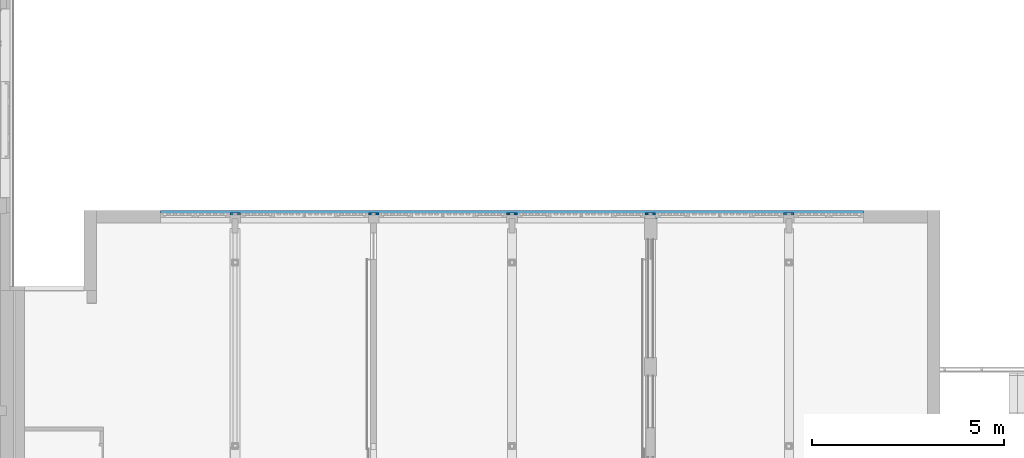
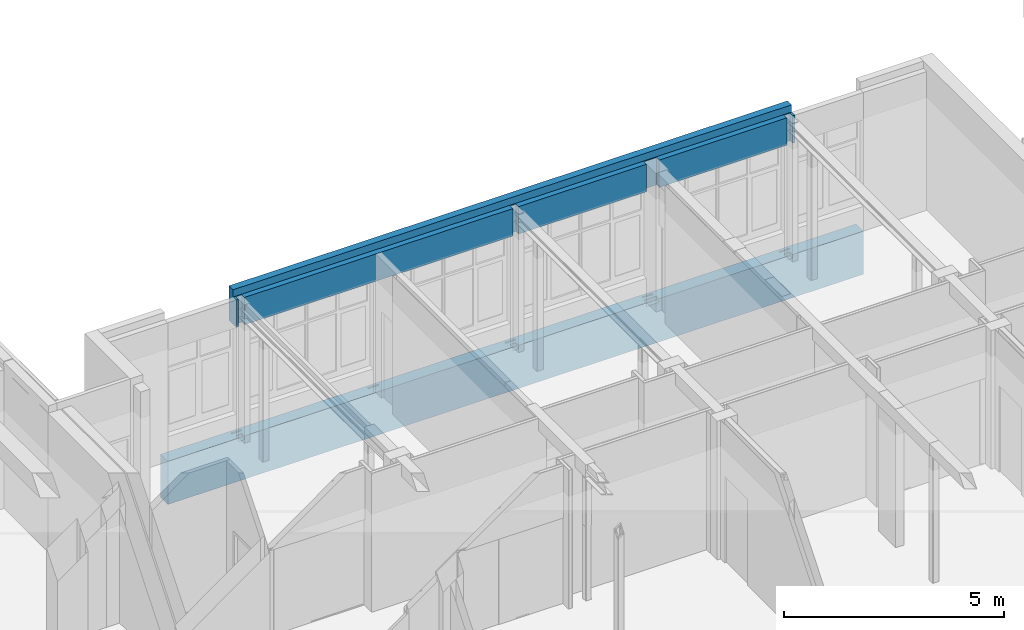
# One storey, part 76 of 135: 1 wall, 10 openings.
"""IFC2X3 building model written with IfcOpenShell, lengths in millimetres."""

from ifc_helpers import new_model, entity, si_unit, converted_unit, derived_unit, money_unit, direction, frame, origin_with_axes, place, context, subcontext, project, spatial, faceted_brep, material, type_object, element, save


model = new_model("IFC2X3")

# Units and contexts
model_context = context("Model", 3, precision=0.01, world=origin_with_axes(), true_north=direction((0.0, 1.0)))
body_context = subcontext(model_context, "Body", "Model", "MODEL_VIEW")
ifc_project = project(units=[si_unit("LENGTHUNIT", "METRE", prefix="MILLI"), si_unit("AREAUNIT", "SQUARE_METRE"), si_unit("VOLUMEUNIT", "CUBIC_METRE"), converted_unit("PLANEANGLEUNIT", "DEGREE", entity("IfcPlaneAngleMeasure", 0.0174532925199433), si_unit("PLANEANGLEUNIT", "RADIAN"), dimensions=[0, 0, 0, 0, 0, 0, 0]), money_unit("EUR"), converted_unit("TIMEUNIT", "Year", entity("IfcTimeMeasure", 31557600.0), si_unit("TIMEUNIT", "SECOND"), dimensions=[0, 0, 1, 0, 0, 0, 0]), si_unit("MASSUNIT", "GRAM", prefix="KILO"), si_unit("THERMODYNAMICTEMPERATUREUNIT", "DEGREE_CELSIUS"), si_unit("LUMINOUSINTENSITYUNIT", "LUMEN"), si_unit("ENERGYUNIT", "JOULE", prefix="MEGA"), derived_unit("THERMALCONDUCTANCEUNIT", [(si_unit("POWERUNIT", "WATT"), 1), (si_unit("LENGTHUNIT", "METRE"), -1), (si_unit("THERMODYNAMICTEMPERATUREUNIT", "KELVIN"), -1)]), derived_unit("SPECIFICHEATCAPACITYUNIT", [(si_unit("ENERGYUNIT", "JOULE"), 1), (si_unit("MASSUNIT", "GRAM", prefix="KILO"), -1), (si_unit("THERMODYNAMICTEMPERATUREUNIT", "KELVIN"), -1)]), derived_unit("MASSDENSITYUNIT", [(si_unit("MASSUNIT", "GRAM", prefix="KILO"), 1), (si_unit("VOLUMEUNIT", "CUBIC_METRE"), -1)])], contexts=[model_context])

# Site, building, storey
site_placement = place(None, origin_with_axes())
site = spatial("IfcSite", under=ifc_project, at=site_placement, Name="Site", CompositionType="ELEMENT")
building_placement = place(site_placement, origin_with_axes())
building = spatial("IfcBuilding", under=site, at=building_placement, Name="Naam gebouw", CompositionType="ELEMENT")
storey_placement = place(building_placement, origin_with_axes())
storey = spatial("IfcBuildingStorey", under=building, at=storey_placement, Name="Begane grond N", CompositionType="ELEMENT", Elevation=0.0)

# Wall, openings
ifc_material = material(Name="ALG - CONSTRUCTIEF")
wall_type = type_object("IfcWallType", Name="ALG - CONSTRUCTIEF 330", PredefinedType="NOTDEFINED")
wall_placement = place(storey_placement, frame((52337.5, 27505.91242510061, -1200.0), z_axis=(0.0, 0.0, 1.0), x_axis=(-1.0, 0.0, 0.0)))
wall = element("IfcWall", 1, at=wall_placement, inside=storey, type_object=wall_type, material=ifc_material, Name="_Wand-x", context=body_context, shape_type="Brep", body=[
    faceted_brep([(16475.0, -145.9999999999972, 1200.0), (16475.0, 0.0, 1200.0), (16412.5, 0.0, 1200.0), (16412.5, -119.9999999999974, 1200.0), (16262.5, -119.9999999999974, 1200.0), (16262.5, 0.0, 1200.0), (14537.5, 0.0, 1200.0), (9212.500000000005, 0.0, 1200.0), (9212.500000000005, -119.9999999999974, 1200.0), (9062.5, -119.9999999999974, 1200.0), (9062.5, 0.0, 1200.0), (5695.197781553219, 0.0, 1200.0), (5695.197781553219, -120.000000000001, 1200.0), (5365.197781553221, -120.000000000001, 1200.0), (5365.197781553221, 0.0, 1200.0), (2012.50000000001, 0.0, 1200.0), (2012.50000000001, -120.000000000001, 1200.0), (1862.500000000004, -120.000000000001, 1200.0), (1862.500000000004, 0.0, 1200.0), (1800.000000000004, 0.0, 1200.0), (1799.999999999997, -146.0000000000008, 1200.0), (0.0, -146.0000000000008, 1200.0), (0.0, -329.9999999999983, 1200.0), (18275.00000000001, -329.9999999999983, 1200.0), (18275.00000000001, -145.9999999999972, 1200.0), (2075.000000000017, -216.0000000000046, 1200.0), (2075.000000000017, -259.999999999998, 1200.0), (1799.999999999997, -259.999999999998, 1200.0), (1799.999999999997, -216.0000000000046, 1200.0), (5400.000000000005, -259.999999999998, 1200.0), (5400.000000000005, -216.0000000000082, 1200.0), (5675.000000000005, -216.0000000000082, 1200.0), (5675.000000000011, -259.999999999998, 1200.0), (9000.000000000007, -259.9999999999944, 1200.0), (9000.000000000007, -216.0000000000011, 1200.0), (9274.999999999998, -216.0000000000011, 1200.0), (9275.000000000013, -259.9999999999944, 1200.0), (12600.00000000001, -259.9999999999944, 1200.0), (12600.00000000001, -216.0000000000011, 1200.0), (12875.00000000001, -216.0000000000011, 1200.0), (12875.00000000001, -259.9999999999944, 1200.0), (16200.0, -259.999999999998, 1200.0), (16200.0, -216.0000000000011, 1200.0), (16475.0, -216.0000000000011, 1200.0), (16475.0, -259.999999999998, 1200.0), (18275.00000000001, 0.0, 1200.0), (18275.00000000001, 0.0, 0.0), (0.0, 0.0, 0.0), (0.0, 0.0, 1200.0), (1862.500000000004, 0.0, 1100.0), (2012.50000000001, 0.0, 1100.0), (5365.197781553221, 0.0, 1100.0), (5695.197781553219, 0.0, 1100.0), (9062.5, 0.0, 1100.0), (9212.500000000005, 0.0, 1100.0), (16262.5, 0.0, 1100.0), (16412.5, 0.0, 1100.0), (16412.5, -119.9999999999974, 1100.0), (16262.5, -119.9999999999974, 1100.0), (9212.500000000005, -119.9999999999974, 1100.0), (9062.5, -119.9999999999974, 1100.0), (5695.197781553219, -120.000000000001, 1100.0), (5365.197781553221, -120.000000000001, 1100.0), (2012.50000000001, -120.000000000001, 1100.0), (1862.500000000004, -120.000000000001, 1100.0), (0.0, -329.9999999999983, 0.0), (18275.00000000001, -329.9999999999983, 0.0)], [[[0, 1, 2, 3, 4, 5, 6, 7, 8, 9, 10, 11, 12, 13, 14, 15, 16, 17, 18, 19, 20, 21, 22, 23, 24], [25, 26, 27, 28], [29, 30, 31, 32], [33, 34, 35, 36], [37, 38, 39, 40], [41, 42, 43, 44]], [[1, 0, 24, 45]], [[2, 1, 45, 46, 47, 48, 19, 18, 49, 50, 15, 14, 51, 52, 11, 10, 53, 54, 7, 6, 5, 55, 56]], [[3, 2, 56, 57]], [[4, 3, 57, 58]], [[5, 4, 58, 55]], [[8, 7, 54, 59]], [[9, 8, 59, 60]], [[10, 9, 60, 53]], [[52, 61, 12, 11]], [[62, 13, 12, 61]], [[14, 13, 62, 51]], [[50, 63, 16, 15]], [[63, 64, 17, 16]], [[64, 49, 18, 17]], [[19, 48, 21, 20]], [[65, 22, 21, 48, 47]], [[65, 66, 23, 22]], [[66, 46, 45, 24, 23]], [[26, 25, 28, 27]], [[30, 29, 32, 31]], [[34, 33, 36, 35]], [[38, 37, 40, 39]], [[42, 41, 44, 43]], [[46, 66, 65, 47]], [[49, 64, 63, 50]], [[61, 52, 51, 62]], [[53, 60, 59, 54]], [[55, 58, 57, 56]]]),
    faceted_brep([(14537.5, 0.0, 4290.0), (16262.5, 0.0, 4290.0), (16262.5, -119.9999999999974, 4290.0), (16412.5, -119.9999999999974, 4290.0), (16412.5, 0.0, 4290.0), (16475.0, 0.0, 4290.0), (16475.0, -145.9999999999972, 4290.0), (16475.0, -216.0000000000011, 4290.0), (16200.0, -216.0000000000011, 4290.0), (16200.0, -259.999999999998, 4290.0), (16475.0, -259.999999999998, 4290.0), (16475.0, -329.9999999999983, 4290.0), (1799.999999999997, -330.0000000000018, 4290.0), (1799.999999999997, -259.999999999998, 4290.000000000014), (2075.000000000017, -259.999999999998, 4290.0), (2075.000000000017, -216.0000000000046, 4290.0), (1799.999999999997, -216.0000000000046, 4290.0), (1799.999999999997, 0.0, 4290.0), (1862.500000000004, 0.0, 4290.0), (1862.500000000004, -120.000000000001, 4290.0), (2012.50000000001, -120.000000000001, 4290.0), (2012.50000000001, 0.0, 4290.0), (5365.197781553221, 0.0, 4290.0), (5365.197781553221, -120.000000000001, 4290.0), (5695.197781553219, -120.000000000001, 4290.0), (5695.197781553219, 0.0, 4290.0), (9062.5, 0.0, 4290.0), (9062.5, -119.9999999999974, 4290.0), (9212.500000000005, -119.9999999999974, 4290.0), (9212.500000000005, 0.0, 4290.0), (5400.000000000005, -259.999999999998, 4290.0), (5675.000000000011, -259.999999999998, 4290.0), (5675.000000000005, -216.0000000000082, 4290.0), (5400.000000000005, -216.0000000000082, 4290.0), (9000.000000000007, -259.9999999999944, 4290.0), (9275.000000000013, -259.9999999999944, 4290.0), (9274.999999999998, -216.0000000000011, 4290.0), (9000.000000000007, -216.0000000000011, 4290.0), (12600.00000000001, -259.9999999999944, 4290.0), (12875.00000000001, -259.9999999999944, 4290.0), (12875.00000000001, -216.0000000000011, 4290.0), (12600.00000000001, -216.0000000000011, 4290.0), (9212.500000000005, 0.0, 5050.000000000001), (16262.5, 0.0, 5050.000000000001), (16262.5, -119.9999999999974, 5050.000000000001), (16412.5, -119.9999999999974, 5050.000000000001), (16412.5, 0.0, 5050.000000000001), (16475.00000000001, 0.0, 5050.000000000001), (16475.00000000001, -145.9999999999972, 5050.000000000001), (16475.00000000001, -145.9999999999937, 5250.000000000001), (16475.00000000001, -329.9999999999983, 5250.000000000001), (1799.999999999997, -329.9999999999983, 5250.000000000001), (1799.999999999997, -145.9999999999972, 5250.000000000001), (1799.999999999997, -145.9999999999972, 5050.000000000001), (1799.999999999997, -146.0000000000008, 4290.0), (1799.999999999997, 0.0, 5050.000000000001), (1862.500000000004, 0.0, 5050.000000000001), (1862.500000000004, -120.000000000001, 5050.000000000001), (2012.50000000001, -120.000000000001, 5050.000000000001), (2012.50000000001, 0.0, 5050.000000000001), (5365.197781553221, 0.0, 5050.000000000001), (5365.197781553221, -120.000000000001, 5050.000000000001), (5695.197781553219, -120.000000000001, 5050.000000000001), (5695.197781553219, 0.0, 5050.000000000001), (9062.5, 0.0, 5050.000000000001), (9062.5, -119.9999999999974, 5050.000000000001), (9212.500000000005, -119.9999999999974, 5050.000000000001)], [[[0, 1, 2, 3, 4, 5, 6, 7, 8, 9, 10, 11, 12, 13, 14, 15, 16, 17, 18, 19, 20, 21, 22, 23, 24, 25, 26, 27, 28, 29], [30, 31, 32, 33], [34, 35, 36, 37], [38, 39, 40, 41]], [[1, 0, 29, 42, 43]], [[2, 1, 43, 44]], [[3, 2, 44, 45]], [[4, 3, 45, 46]], [[5, 4, 46, 47]], [[6, 5, 47, 48]], [[7, 6, 48, 49, 50, 11, 10]], [[8, 7, 10, 9]], [[50, 51, 12, 11]], [[12, 51, 52, 53, 54, 17, 16, 13]], [[15, 14, 13, 16]], [[55, 56, 18, 17]], [[56, 57, 19, 18]], [[57, 58, 20, 19]], [[58, 59, 21, 20]], [[22, 21, 59, 60]], [[23, 22, 60, 61]], [[61, 62, 24, 23]], [[62, 63, 25, 24]], [[26, 25, 63, 64]], [[27, 26, 64, 65]], [[28, 27, 65, 66]], [[29, 28, 66, 42]], [[30, 33, 32, 31]], [[34, 37, 36, 35]], [[38, 41, 40, 39]], [[64, 63, 62, 61, 60, 59, 58, 57, 56, 55, 53, 48, 47, 46, 45, 44, 43, 42, 66, 65]], [[49, 48, 53, 52]], [[50, 49, 52, 51]], [[55, 17, 54, 53]]]),
])
opening_1_placement = place(wall_placement, frame((2906.250000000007, 0.0, 1200.0), z_axis=(0.0, 0.0, 1.0), x_axis=(1.0, 0.0, 0.0)))
element("IfcOpeningElement", 2, at=opening_1_placement, cuts=wall, Name="_Merk-006", context=body_context, shape_type="Brep", body=[
    faceted_brep([(831.2499999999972, -259.999999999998, 0.0), (831.2499999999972, -259.999999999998, 3090.0), (831.2499999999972, -331.0000000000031, 3090.0), (831.2499999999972, -331.0000000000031, 0.0), (831.2499999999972, 1.000000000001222, 0.0), (831.2499999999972, 1.000000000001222, 3090.0), (-1106.250000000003, -259.999999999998, 3090.0), (-1106.250000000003, -331.0000000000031, 3090.0), (-1106.250000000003, 1.000000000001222, 3090.0), (-1106.250000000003, -331.0000000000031, 0.0), (-1106.250000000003, -259.999999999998, 0.0), (-1106.250000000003, 1.000000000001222, 0.0)], [[[0, 1, 2, 3]], [[1, 0, 4, 5]], [[6, 7, 2, 1, 5, 8]], [[7, 9, 3, 2]], [[0, 3, 9, 10, 11, 4]], [[5, 4, 11, 8]], [[6, 10, 9, 7]], [[10, 6, 8, 11]]]),
])
opening_2_placement = place(wall_placement, frame((17375.00000000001, 0.0, 1200.0), z_axis=(0.0, 0.0, 1.0), x_axis=(1.0, 0.0, 0.0)))
element("IfcOpeningElement", 3, at=opening_2_placement, cuts=wall, Name="_Merk-005", context=body_context, shape_type="Brep", body=[
    faceted_brep([(899.9999999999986, -259.999999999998, 0.0), (899.9999999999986, -259.999999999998, 4090.0), (899.9999999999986, -330.9999999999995, 4090.0), (899.9999999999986, -330.9999999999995, 0.0), (899.9999999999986, 1.000000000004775, 0.0), (899.9999999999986, 1.000000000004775, 4090.0), (-899.9999999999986, -259.999999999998, 4090.0), (-899.9999999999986, -330.9999999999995, 4090.0), (-899.9999999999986, 1.000000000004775, 4090.0), (-899.9999999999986, -330.9999999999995, 0.0), (-899.9999999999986, -259.999999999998, 0.0), (-899.9999999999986, 1.000000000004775, 0.0)], [[[0, 1, 2, 3]], [[1, 0, 4, 5]], [[6, 7, 2, 1, 5, 8]], [[7, 9, 3, 2]], [[0, 3, 9, 10, 11, 4]], [[5, 4, 11, 8]], [[6, 10, 9, 7]], [[10, 6, 8, 11]]]),
])
opening_3_placement = place(wall_placement, frame((899.9999999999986, 0.0, 1200.0), z_axis=(0.0, 0.0, 1.0), x_axis=(1.0, 0.0, 0.0)))
element("IfcOpeningElement", 4, at=opening_3_placement, cuts=wall, Name="_Merk-005", context=body_context, shape_type="Brep", body=[
    faceted_brep([(899.9999999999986, -259.999999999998, 0.0), (899.9999999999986, -259.999999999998, 4090.0), (899.9999999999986, -331.0000000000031, 4090.0), (899.9999999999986, -331.0000000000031, 0.0), (899.9999999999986, 1.000000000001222, 0.0), (899.9999999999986, 1.000000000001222, 4090.0), (-899.9999999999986, -259.999999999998, 4090.0), (-899.9999999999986, -331.0000000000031, 4090.0), (-899.9999999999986, 1.000000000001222, 4090.0), (-899.9999999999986, -331.0000000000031, 0.0), (-899.9999999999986, -259.999999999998, 0.0), (-899.9999999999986, 1.000000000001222, 0.0)], [[[0, 1, 2, 3]], [[1, 0, 4, 5]], [[6, 7, 2, 1, 5, 8]], [[7, 9, 3, 2]], [[0, 3, 9, 10, 11, 4]], [[5, 4, 11, 8]], [[6, 10, 9, 7]], [[10, 6, 8, 11]]]),
])
opening_4_placement = place(wall_placement, frame((6506.250000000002, 0.0, 1200.0), z_axis=(0.0, 0.0, 1.0), x_axis=(1.0, 0.0, 0.0)))
element("IfcOpeningElement", 5, at=opening_4_placement, cuts=wall, Name="_Merk-006", context=body_context, shape_type="Brep", body=[
    faceted_brep([(831.2499999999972, -259.9999999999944, 0.0), (831.2499999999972, -259.9999999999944, 3090.0), (831.2499999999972, -330.9999999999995, 3090.0), (831.2499999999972, -330.9999999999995, 0.0), (831.2499999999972, 1.000000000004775, 0.0), (831.2499999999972, 1.000000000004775, 3090.0), (-1106.250000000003, -259.999999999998, 3090.0), (-1106.250000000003, -331.0000000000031, 3090.0), (-1106.250000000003, 1.000000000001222, 3090.0), (-1106.250000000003, -331.0000000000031, 0.0), (-1106.250000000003, -259.999999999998, 0.0), (-1106.250000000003, 1.000000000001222, 0.0)], [[[0, 1, 2, 3]], [[1, 0, 4, 5]], [[6, 7, 2, 1, 5, 8]], [[7, 9, 3, 2]], [[0, 3, 9, 10, 11, 4]], [[5, 4, 11, 8]], [[6, 10, 9, 7]], [[10, 6, 8, 11]]]),
])
opening_5_placement = place(wall_placement, frame((4568.750000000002, 0.0, 1200.0), z_axis=(0.0, 0.0, 1.0), x_axis=(1.0, 0.0, 0.0)))
element("IfcOpeningElement", 6, at=opening_5_placement, cuts=wall, Name="_Merk-006sp", context=body_context, shape_type="Brep", body=[
    faceted_brep([(1106.250000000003, -259.999999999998, 0.0), (1106.250000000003, -259.999999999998, 3090.0), (1106.250000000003, -331.0000000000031, 3090.0), (1106.250000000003, -331.0000000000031, 0.0), (1106.250000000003, 1.000000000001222, 0.0), (1106.250000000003, 1.000000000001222, 3090.0), (-831.2499999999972, -259.999999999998, 3090.0), (-831.2499999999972, -331.0000000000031, 3090.0), (-831.2499999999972, 1.000000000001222, 3090.0), (-831.2499999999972, -331.0000000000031, 0.0), (-831.2499999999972, -259.999999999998, 0.0), (-831.2499999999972, 1.000000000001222, 0.0)], [[[0, 1, 2, 3]], [[1, 0, 4, 5]], [[6, 7, 2, 1, 5, 8]], [[7, 9, 3, 2]], [[0, 3, 9, 10, 11, 4]], [[5, 4, 11, 8]], [[6, 10, 9, 7]], [[10, 6, 8, 11]]]),
])
opening_6_placement = place(wall_placement, frame((10106.25, 0.0, 1200.0), z_axis=(0.0, 0.0, 1.0), x_axis=(1.0, 0.0, 0.0)))
element("IfcOpeningElement", 7, at=opening_6_placement, cuts=wall, Name="_Merk-006", context=body_context, shape_type="Brep", body=[
    faceted_brep([(831.2499999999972, -259.9999999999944, 0.0), (831.2499999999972, -259.9999999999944, 3090.0), (831.2499999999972, -330.9999999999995, 3090.0), (831.2499999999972, -330.9999999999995, 0.0), (831.2499999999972, 1.000000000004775, 0.0), (831.2499999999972, 1.000000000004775, 3090.0), (-1106.250000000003, -259.9999999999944, 3090.0), (-1106.250000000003, -330.9999999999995, 3090.0), (-1106.250000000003, 1.000000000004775, 3090.0), (-1106.250000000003, -330.9999999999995, 0.0), (-1106.250000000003, -259.9999999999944, 0.0), (-1106.250000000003, 1.000000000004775, 0.0)], [[[0, 1, 2, 3]], [[1, 0, 4, 5]], [[6, 7, 2, 1, 5, 8]], [[7, 9, 3, 2]], [[0, 3, 9, 10, 11, 4]], [[5, 4, 11, 8]], [[6, 10, 9, 7]], [[10, 6, 8, 11]]]),
])
opening_7_placement = place(wall_placement, frame((13706.25, 0.0, 1200.0), z_axis=(0.0, 0.0, 1.0), x_axis=(1.0, 0.0, 0.0)))
element("IfcOpeningElement", 8, at=opening_7_placement, cuts=wall, Name="_Merk-006", context=body_context, shape_type="Brep", body=[
    faceted_brep([(831.2499999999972, -259.9999999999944, 0.0), (831.2499999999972, -259.9999999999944, 3090.0), (831.2499999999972, -330.9999999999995, 3090.0), (831.2499999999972, -330.9999999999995, 0.0), (831.2499999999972, 1.000000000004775, 0.0), (831.2499999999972, 1.000000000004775, 3090.0), (-1106.250000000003, -259.9999999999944, 3090.0), (-1106.250000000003, -330.9999999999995, 3090.0), (-1106.250000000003, 1.000000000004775, 3090.0), (-1106.250000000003, -330.9999999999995, 0.0), (-1106.250000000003, -259.9999999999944, 0.0), (-1106.250000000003, 1.000000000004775, 0.0)], [[[0, 1, 2, 3]], [[1, 0, 4, 5]], [[6, 7, 2, 1, 5, 8]], [[7, 9, 3, 2]], [[0, 3, 9, 10, 11, 4]], [[5, 4, 11, 8]], [[6, 10, 9, 7]], [[10, 6, 8, 11]]]),
])
opening_8_placement = place(wall_placement, frame((11768.75, 0.0, 1200.0), z_axis=(0.0, 0.0, 1.0), x_axis=(1.0, 0.0, 0.0)))
element("IfcOpeningElement", 9, at=opening_8_placement, cuts=wall, Name="_Merk-006sp", context=body_context, shape_type="Brep", body=[
    faceted_brep([(1106.250000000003, -259.9999999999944, 0.0), (1106.250000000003, -259.9999999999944, 3090.0), (1106.250000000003, -330.9999999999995, 3090.0), (1106.250000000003, -330.9999999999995, 0.0), (1106.250000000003, 1.000000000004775, 0.0), (1106.250000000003, 1.000000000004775, 3090.0), (-831.2499999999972, -259.9999999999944, 3090.0), (-831.2499999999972, -330.9999999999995, 3090.0), (-831.2499999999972, 1.000000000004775, 3090.0), (-831.2499999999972, -330.9999999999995, 0.0), (-831.2499999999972, -259.9999999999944, 0.0), (-831.2499999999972, 1.000000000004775, 0.0)], [[[0, 1, 2, 3]], [[1, 0, 4, 5]], [[6, 7, 2, 1, 5, 8]], [[7, 9, 3, 2]], [[0, 3, 9, 10, 11, 4]], [[5, 4, 11, 8]], [[6, 10, 9, 7]], [[10, 6, 8, 11]]]),
])
opening_9_placement = place(wall_placement, frame((8168.749999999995, 0.0, 1200.0), z_axis=(0.0, 0.0, 1.0), x_axis=(1.0, 0.0, 0.0)))
element("IfcOpeningElement", 10, at=opening_9_placement, cuts=wall, Name="_Merk-006sp", context=body_context, shape_type="Brep", body=[
    faceted_brep([(1106.250000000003, -259.999999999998, 0.0), (1106.250000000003, -259.999999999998, 3090.0), (1106.250000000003, -331.0000000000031, 3090.0), (1106.250000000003, -331.0000000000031, 0.0), (1106.250000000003, 1.000000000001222, 0.0), (1106.250000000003, 1.000000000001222, 3090.0), (-831.2499999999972, -259.999999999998, 3090.0), (-831.2499999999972, -331.0000000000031, 3090.0), (-831.2499999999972, 1.000000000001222, 3090.0), (-831.2499999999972, -331.0000000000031, 0.0), (-831.2499999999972, -259.999999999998, 0.0), (-831.2499999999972, 1.000000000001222, 0.0)], [[[0, 1, 2, 3]], [[1, 0, 4, 5]], [[6, 7, 2, 1, 5, 8]], [[7, 9, 3, 2]], [[0, 3, 9, 10, 11, 4]], [[5, 4, 11, 8]], [[6, 10, 9, 7]], [[10, 6, 8, 11]]]),
])
opening_10_placement = place(wall_placement, frame((15368.75, 0.0, 1200.0), z_axis=(0.0, 0.0, 1.0), x_axis=(1.0, 0.0, 0.0)))
element("IfcOpeningElement", 11, at=opening_10_placement, cuts=wall, Name="_Merk-006sp", context=body_context, shape_type="Brep", body=[
    faceted_brep([(1106.250000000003, -259.999999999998, 0.0), (1106.250000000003, -259.999999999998, 3090.0), (1106.250000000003, -330.9999999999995, 3090.0), (1106.250000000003, -330.9999999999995, 0.0), (1106.250000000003, 1.000000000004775, 0.0), (1106.250000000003, 1.000000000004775, 3090.0), (-831.2499999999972, -259.999999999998, 3090.0), (-831.2499999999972, -330.9999999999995, 3090.0), (-831.2499999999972, 1.000000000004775, 3090.0), (-831.2499999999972, -330.9999999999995, 0.0), (-831.2499999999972, -259.999999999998, 0.0), (-831.2499999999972, 1.000000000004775, 0.0)], [[[0, 1, 2, 3]], [[1, 0, 4, 5]], [[6, 7, 2, 1, 5, 8]], [[7, 9, 3, 2]], [[0, 3, 9, 10, 11, 4]], [[5, 4, 11, 8]], [[6, 10, 9, 7]], [[10, 6, 8, 11]]]),
])

save(model, "model.ifc")
